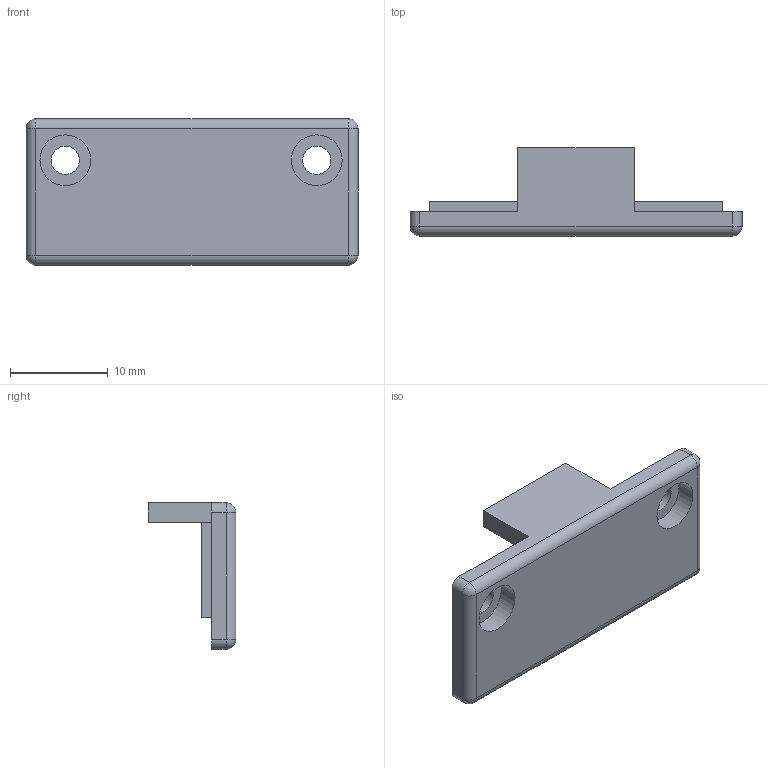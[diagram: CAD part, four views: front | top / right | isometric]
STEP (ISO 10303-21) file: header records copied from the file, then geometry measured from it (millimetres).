
FILE_DESCRIPTION(('STEP AP242 Edition 2','STEP AP242 Edition 2''CAx-IF Rec.Pracs.---Representation and Presentation of Product Manufacturing Information (PMI)---4.0---2014-10-13','STEP AP242 Edition 2''CAx-IF Rec.Pracs.---Representation and Presentation of Product Manufacturing Information (PMI)---4.0---2014-10-13''CAx-IF Rec.Pracs.---3D Tessellated Geometry---0.4---2014-09-14','STEP AP242 Edition 2''CAx-IF Rec.Pracs.---Representation and Presentation of Product Manufacturing Information (PMI)---4.0---2014-10-13''CAx-IF Rec.Pracs.---3D Tessellated Geometry---0.4---2014-09-14''2;1','STEP AP242 Edition 2''CAx-IF Rec.Pracs.---Representation and Presentation of Product Manufacturing Information (PMI)---4.0---2014-10-13''CAx-IF Rec.Pracs.---3D Tessellated Geometry---0.4---2014-09-14''2;1''CAx-IF Rec.Pracs.---User Defined Attributes---1.5---2016-08-15'),'2;1');
FILE_NAME('/vol/tmp/translate-13651982295911169668/SCD41_box1 - Cap Face.step','2026-04-25T00:05:20',(''),(''),'ST-DEVELOPER v20','ONSHAPE BY PTC INC, 1.214',' ');
FILE_SCHEMA(('AP242_MANAGED_MODEL_BASED_3D_ENGINEERING_MIM_LF { 1 0 10303 442 3 1 4 }'));
Length unit declared in the file: metre
Products named in the file (1): Cap Face
Bounding box: 34 x 9 x 15 mm (x, y, z)
Volume: 1594.8 mm3; surface area: 1543.9 mm2
Topology: 1 solids, 1 shells, 33 faces, 78 edges, 46 vertices
Faces by surface type: plane 17, cylinder 12, sphere 4
Full cylindrical faces by diameter (mm): 2.9 x2, 5.2 x2
Entity records: 980 total; most frequent: DIRECTION 166, CARTESIAN_POINT 149, ORIENTED_EDGE 136, EDGE_CURVE 68, AXIS2_PLACEMENT_3D 61, VERTEX_POINT 44, LINE 44, VECTOR 44
